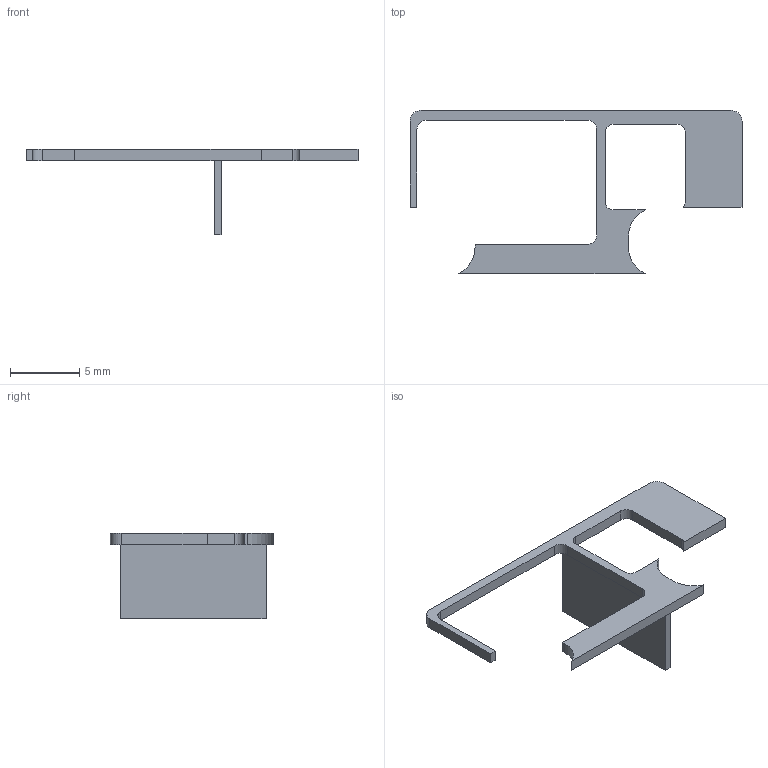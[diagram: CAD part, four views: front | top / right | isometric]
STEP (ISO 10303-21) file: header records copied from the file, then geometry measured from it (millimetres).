
FILE_DESCRIPTION(('Open CASCADE Model'),'2;1');
FILE_NAME('Sensor light barrier','2026-11-11T17:10:58',('Author'),( 'Open CASCADE'),'Open CASCADE STEP processor 7.8','build123d', 'Unknown');
FILE_SCHEMA(('AUTOMOTIVE_DESIGN { 1 0 10303 214 1 1 1 1 }'));
Length unit declared in the file: millimetre
Products named in the file (1): Sensor light barrier
Bounding box: 24 x 11.8 x 6.15 mm (x, y, z)
Volume: 94.3 mm3; surface area: 379.2 mm2
Topology: 1 solids, 1 shells, 34 faces, 96 edges, 64 vertices
Faces by surface type: plane 22, cylinder 12
Entity records: 2363 total; most frequent: CARTESIAN_POINT 395, DIRECTION 374, LINE 232, VECTOR 232, ORIENTED_EDGE 192, PCURVE 192, DEFINITIONAL_REPRESENTATION 192, EDGE_CURVE 96
